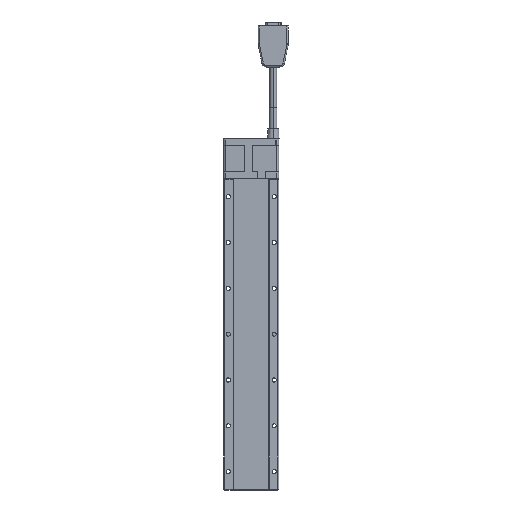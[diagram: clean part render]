
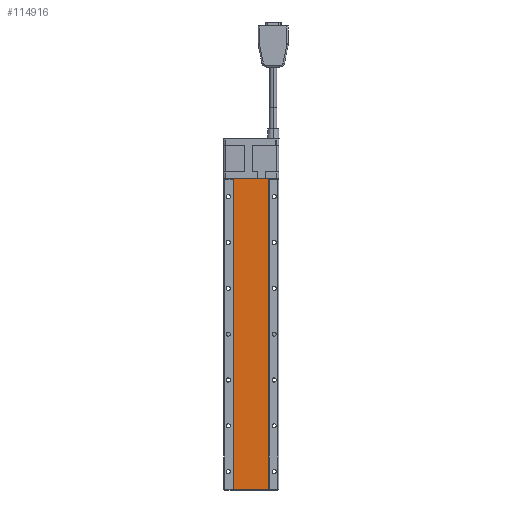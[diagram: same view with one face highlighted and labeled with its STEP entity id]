
A CAD part, front view. The second image highlights one B-rep face of the part: STEP entity #114916.
In plain terms, the highlighted planar face has unit normal (0, -1, 0).
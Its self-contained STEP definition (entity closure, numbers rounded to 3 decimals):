
#4742 = DIRECTION ( 'NONE',  ( 0., 1., 0. ) ) ;
#12865 = EDGE_LOOP ( 'NONE', ( #68734, #23464, #73219, #90234 ) ) ;
#13088 = FACE_OUTER_BOUND ( 'NONE', #12865, .T. ) ;
#14943 = DIRECTION ( 'NONE',  ( 0., 0., -1. ) ) ;
#17446 = EDGE_CURVE ( 'NONE', #42394, #35227, #81762, .T. ) ;
#18748 = CARTESIAN_POINT ( 'NONE',  ( -19.3, 0.8, 339.8 ) ) ;
#19769 = EDGE_CURVE ( 'NONE', #72803, #42394, #111976, .T. ) ;
#20612 = DIRECTION ( 'NONE',  ( -1., 0., 0. ) ) ;
#23464 = ORIENTED_EDGE ( 'NONE', *, *, #17446, .T. ) ;
#35227 = VERTEX_POINT ( 'NONE', #104910 ) ;
#36569 = DIRECTION ( 'NONE',  ( 0., 0., 1. ) ) ;
#36897 = VECTOR ( 'NONE', #14943, 1000. ) ;
#39678 = CARTESIAN_POINT ( 'NONE',  ( 19.3, 0.8, 339.8 ) ) ;
#42217 = DIRECTION ( 'NONE',  ( 1., 0., 0. ) ) ;
#42394 = VERTEX_POINT ( 'NONE', #95716 ) ;
#50829 = EDGE_CURVE ( 'NONE', #85529, #72803, #67861, .T. ) ;
#64081 = CARTESIAN_POINT ( 'NONE',  ( -19.3, 0.8, 0.2 ) ) ;
#67861 = LINE ( 'NONE', #18748, #126044 ) ;
#68734 = ORIENTED_EDGE ( 'NONE', *, *, #19769, .T. ) ;
#71762 = PLANE ( 'NONE',  #77707 ) ;
#72653 = CARTESIAN_POINT ( 'NONE',  ( -19.3, 0.8, 339.8 ) ) ;
#72803 = VERTEX_POINT ( 'NONE', #72653 ) ;
#73036 = DIRECTION ( 'NONE',  ( -1., 0., 0. ) ) ;
#73219 = ORIENTED_EDGE ( 'NONE', *, *, #93824, .T. ) ;
#75491 = LINE ( 'NONE', #95352, #93224 ) ;
#77707 = AXIS2_PLACEMENT_3D ( 'NONE', #92190, #4742, #73036 ) ;
#81762 = LINE ( 'NONE', #90100, #124297 ) ;
#85529 = VERTEX_POINT ( 'NONE', #39678 ) ;
#90100 = CARTESIAN_POINT ( 'NONE',  ( -19.3, 0.8, 0.2 ) ) ;
#90234 = ORIENTED_EDGE ( 'NONE', *, *, #50829, .T. ) ;
#92190 = CARTESIAN_POINT ( 'NONE',  ( -19.3, 0.8, 339.8 ) ) ;
#93224 = VECTOR ( 'NONE', #36569, 1000. ) ;
#93824 = EDGE_CURVE ( 'NONE', #35227, #85529, #75491, .T. ) ;
#95352 = CARTESIAN_POINT ( 'NONE',  ( 19.3, 0.8, 0.2 ) ) ;
#95716 = CARTESIAN_POINT ( 'NONE',  ( -19.3, 0.8, 0.2 ) ) ;
#104910 = CARTESIAN_POINT ( 'NONE',  ( 19.3, 0.8, 0.2 ) ) ;
#111976 = LINE ( 'NONE', #64081, #36897 ) ;
#114916 = ADVANCED_FACE ( 'NONE', ( #13088 ), #71762, .F. ) ;
#124297 = VECTOR ( 'NONE', #42217, 1000. ) ;
#126044 = VECTOR ( 'NONE', #20612, 1000. ) ;
